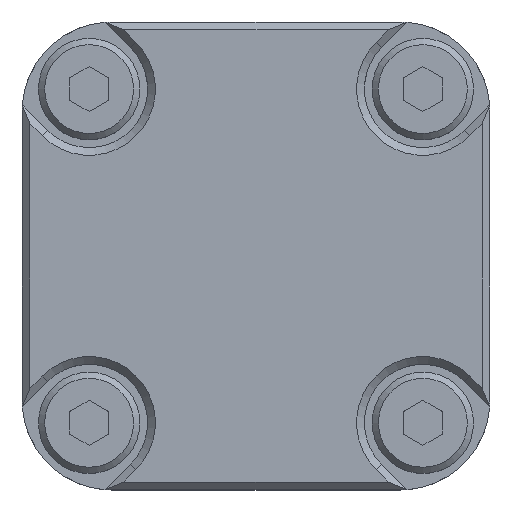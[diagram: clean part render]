
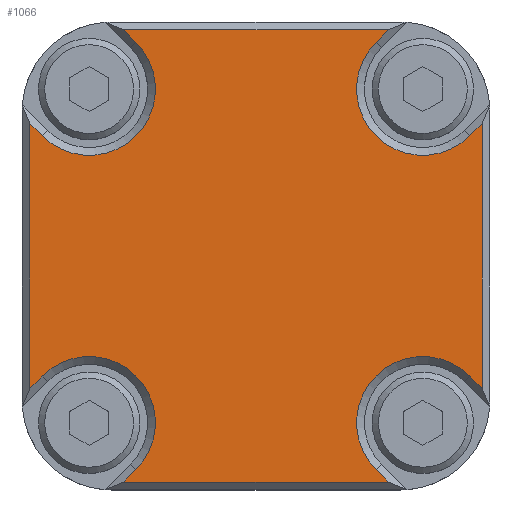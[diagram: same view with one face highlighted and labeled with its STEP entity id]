
A CAD part, top view. The second image highlights one B-rep face of the part: STEP entity #1066.
In plain terms, the highlighted planar face has unit normal (0, 0, 1).
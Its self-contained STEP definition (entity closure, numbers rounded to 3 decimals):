
#157=LINE('',#6189,#349);
#158=LINE('',#6192,#350);
#159=LINE('',#6194,#351);
#160=LINE('',#6198,#352);
#161=LINE('',#6200,#353);
#162=LINE('',#6202,#354);
#163=LINE('',#6206,#355);
#164=LINE('',#6208,#356);
#165=LINE('',#6210,#357);
#166=LINE('',#6214,#358);
#167=LINE('',#6216,#359);
#168=LINE('',#6218,#360);
#349=VECTOR('',#4941,1.);
#350=VECTOR('',#4942,1.);
#351=VECTOR('',#4943,1.);
#352=VECTOR('',#4946,1.);
#353=VECTOR('',#4947,1.);
#354=VECTOR('',#4948,1.);
#355=VECTOR('',#4951,1.);
#356=VECTOR('',#4952,1.);
#357=VECTOR('',#4953,1.);
#358=VECTOR('',#4956,1.);
#359=VECTOR('',#4957,1.);
#360=VECTOR('',#4958,1.);
#688=FACE_OUTER_BOUND('',#1820,.T.);
#1066=ADVANCED_FACE('',(#688),#1231,.T.);
#1231=PLANE('',#4091);
#1820=EDGE_LOOP('',(#2393,#2394,#2395,#2396,#2397,#2398,#2399,#2400,#2401,
#2402,#2403,#2404,#2405,#2406,#2407,#2408));
#2393=ORIENTED_EDGE('',*,*,#3316,.T.);
#2394=ORIENTED_EDGE('',*,*,#3317,.T.);
#2395=ORIENTED_EDGE('',*,*,#3318,.T.);
#2396=ORIENTED_EDGE('',*,*,#3319,.T.);
#2397=ORIENTED_EDGE('',*,*,#3320,.T.);
#2398=ORIENTED_EDGE('',*,*,#3321,.T.);
#2399=ORIENTED_EDGE('',*,*,#3322,.T.);
#2400=ORIENTED_EDGE('',*,*,#3323,.T.);
#2401=ORIENTED_EDGE('',*,*,#3324,.T.);
#2402=ORIENTED_EDGE('',*,*,#3325,.T.);
#2403=ORIENTED_EDGE('',*,*,#3326,.T.);
#2404=ORIENTED_EDGE('',*,*,#3327,.T.);
#2405=ORIENTED_EDGE('',*,*,#3328,.T.);
#2406=ORIENTED_EDGE('',*,*,#3329,.T.);
#2407=ORIENTED_EDGE('',*,*,#3330,.T.);
#2408=ORIENTED_EDGE('',*,*,#3331,.T.);
#2961=VERTEX_POINT('',#6190);
#2962=VERTEX_POINT('',#6191);
#2963=VERTEX_POINT('',#6193);
#2964=VERTEX_POINT('',#6195);
#2965=VERTEX_POINT('',#6197);
#2966=VERTEX_POINT('',#6199);
#2967=VERTEX_POINT('',#6201);
#2968=VERTEX_POINT('',#6203);
#2969=VERTEX_POINT('',#6205);
#2970=VERTEX_POINT('',#6207);
#2971=VERTEX_POINT('',#6209);
#2972=VERTEX_POINT('',#6211);
#2973=VERTEX_POINT('',#6213);
#2974=VERTEX_POINT('',#6215);
#2975=VERTEX_POINT('',#6217);
#2976=VERTEX_POINT('',#6219);
#3316=EDGE_CURVE('',#2961,#2962,#157,.T.);
#3317=EDGE_CURVE('',#2962,#2963,#158,.T.);
#3318=EDGE_CURVE('',#2963,#2964,#159,.T.);
#3319=EDGE_CURVE('',#2964,#2965,#3730,.T.);
#3320=EDGE_CURVE('',#2965,#2966,#160,.T.);
#3321=EDGE_CURVE('',#2966,#2967,#161,.T.);
#3322=EDGE_CURVE('',#2967,#2968,#162,.T.);
#3323=EDGE_CURVE('',#2968,#2969,#3731,.T.);
#3324=EDGE_CURVE('',#2969,#2970,#163,.T.);
#3325=EDGE_CURVE('',#2970,#2971,#164,.T.);
#3326=EDGE_CURVE('',#2971,#2972,#165,.T.);
#3327=EDGE_CURVE('',#2972,#2973,#3732,.T.);
#3328=EDGE_CURVE('',#2973,#2974,#166,.T.);
#3329=EDGE_CURVE('',#2974,#2975,#167,.T.);
#3330=EDGE_CURVE('',#2975,#2976,#168,.T.);
#3331=EDGE_CURVE('',#2976,#2961,#3733,.T.);
#3730=CIRCLE('',#4087,8.5);
#3731=CIRCLE('',#4088,8.5);
#3732=CIRCLE('',#4089,8.5);
#3733=CIRCLE('',#4090,8.5);
#4087=AXIS2_PLACEMENT_3D('',#6196,#4944,#4945);
#4088=AXIS2_PLACEMENT_3D('',#6204,#4949,#4950);
#4089=AXIS2_PLACEMENT_3D('',#6212,#4954,#4955);
#4090=AXIS2_PLACEMENT_3D('',#6220,#4959,#4960);
#4091=AXIS2_PLACEMENT_3D('',#6221,#4961,#4962);
#4941=DIRECTION('',(-0.707,0.707,0.));
#4942=DIRECTION('',(0.,-1.,0.));
#4943=DIRECTION('',(0.707,0.707,0.));
#4944=DIRECTION('',(0.,0.,-1.));
#4945=DIRECTION('',(0.,-1.,0.));
#4946=DIRECTION('',(-0.707,-0.707,0.));
#4947=DIRECTION('',(1.,0.,0.));
#4948=DIRECTION('',(-0.707,0.707,0.));
#4949=DIRECTION('',(0.,0.,-1.));
#4950=DIRECTION('',(1.,0.,0.));
#4951=DIRECTION('',(0.707,-0.707,0.));
#4952=DIRECTION('',(0.,1.,0.));
#4953=DIRECTION('',(-0.707,-0.707,0.));
#4954=DIRECTION('',(0.,0.,-1.));
#4955=DIRECTION('',(0.,1.,0.));
#4956=DIRECTION('',(0.707,0.707,0.));
#4957=DIRECTION('',(-1.,0.,0.));
#4958=DIRECTION('',(0.707,-0.707,0.));
#4959=DIRECTION('',(0.,0.,-1.));
#4960=DIRECTION('',(-1.,0.,0.));
#4961=DIRECTION('',(0.,0.,1.));
#4962=DIRECTION('',(1.,0.,0.));
#6189=CARTESIAN_POINT('',(-144.675,-29.546,59.8));
#6190=CARTESIAN_POINT('',(-141.41,-32.81,59.8));
#6191=CARTESIAN_POINT('',(-143.,-31.221,59.8));
#6192=CARTESIAN_POINT('',(-143.,-66.7,59.8));
#6193=CARTESIAN_POINT('',(-143.,-65.179,59.8));
#6194=CARTESIAN_POINT('',(-144.239,-66.418,59.8));
#6195=CARTESIAN_POINT('',(-141.41,-63.59,59.8));
#6196=CARTESIAN_POINT('',(-135.4,-69.6,59.8));
#6197=CARTESIAN_POINT('',(-129.39,-75.61,59.8));
#6198=CARTESIAN_POINT('',(-107.99,-54.21,59.8));
#6199=CARTESIAN_POINT('',(-130.979,-77.2,59.8));
#6200=CARTESIAN_POINT('',(-95.5,-77.2,59.8));
#6201=CARTESIAN_POINT('',(-97.021,-77.2,59.8));
#6202=CARTESIAN_POINT('',(-95.782,-78.439,59.8));
#6203=CARTESIAN_POINT('',(-98.61,-75.61,59.8));
#6204=CARTESIAN_POINT('',(-92.6,-69.6,59.8));
#6205=CARTESIAN_POINT('',(-86.59,-63.59,59.8));
#6206=CARTESIAN_POINT('',(-89.49,-60.69,59.8));
#6207=CARTESIAN_POINT('',(-85.,-65.179,59.8));
#6208=CARTESIAN_POINT('',(-85.,-66.7,59.8));
#6209=CARTESIAN_POINT('',(-85.,-31.221,59.8));
#6210=CARTESIAN_POINT('',(-107.99,-54.21,59.8));
#6211=CARTESIAN_POINT('',(-86.59,-32.81,59.8));
#6212=CARTESIAN_POINT('',(-92.6,-26.8,59.8));
#6213=CARTESIAN_POINT('',(-98.61,-20.79,59.8));
#6214=CARTESIAN_POINT('',(-95.346,-17.525,59.8));
#6215=CARTESIAN_POINT('',(-97.021,-19.2,59.8));
#6216=CARTESIAN_POINT('',(-95.5,-19.2,59.8));
#6217=CARTESIAN_POINT('',(-130.979,-19.2,59.8));
#6218=CARTESIAN_POINT('',(-89.49,-60.69,59.8));
#6219=CARTESIAN_POINT('',(-129.39,-20.79,59.8));
#6220=CARTESIAN_POINT('',(-135.4,-26.8,59.8));
#6221=CARTESIAN_POINT('',(-95.5,-66.7,59.8));
